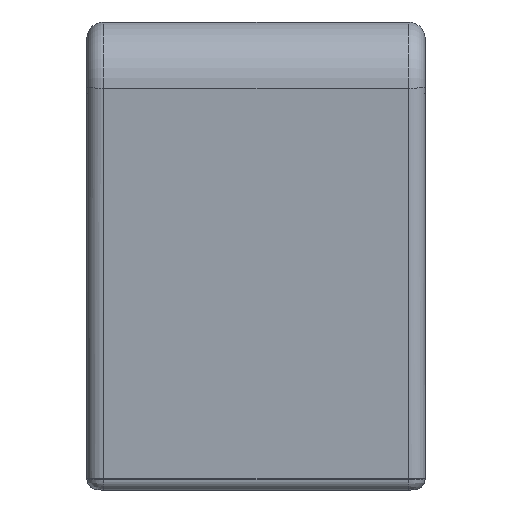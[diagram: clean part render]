
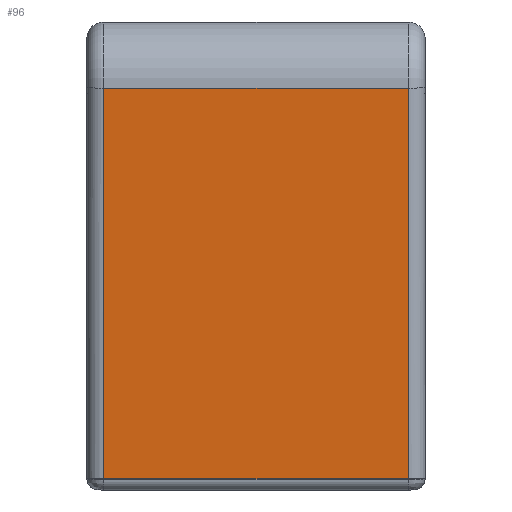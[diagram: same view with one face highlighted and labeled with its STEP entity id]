
A CAD part, left-side view. The second image highlights one B-rep face of the part: STEP entity #96.
In plain terms, the highlighted planar face has unit normal (-0.998, 0, -0.067).
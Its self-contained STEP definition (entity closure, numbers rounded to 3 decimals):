
#96 = ADVANCED_FACE ( 'NONE', ( #1278 ), #4313, .T. ) ;
#222 = AXIS2_PLACEMENT_3D ( 'NONE', #4314, #4315, #4316 ) ;
#479 = EDGE_CURVE ( 'NONE', #3747, #3734, #1827, .T. ) ;
#480 = EDGE_CURVE ( 'NONE', #3734, #3723, #1829, .T. ) ;
#481 = EDGE_CURVE ( 'NONE', #3723, #3728, #1831, .T. ) ;
#482 = EDGE_CURVE ( 'NONE', #3747, #3728, #1833, .T. ) ;
#599 = EDGE_LOOP ( 'NONE', ( #1750, #1751, #1752, #1753 ) ) ;
#1278 = FACE_OUTER_BOUND ( 'NONE', #599, .T. ) ;
#1750 = ORIENTED_EDGE ( 'NONE', *, *, #479, .T. ) ;
#1751 = ORIENTED_EDGE ( 'NONE', *, *, #480, .T. ) ;
#1752 = ORIENTED_EDGE ( 'NONE', *, *, #481, .T. ) ;
#1753 = ORIENTED_EDGE ( 'NONE', *, *, #482, .F. ) ;
#1827 = LINE ( 'NONE', #3041, #1828 ) ;
#1828 = VECTOR ( 'NONE', #3042, 1000. ) ;
#1829 = LINE ( 'NONE', #3043, #1830 ) ;
#1830 = VECTOR ( 'NONE', #3044, 1000. ) ;
#1831 = LINE ( 'NONE', #3045, #1832 ) ;
#1832 = VECTOR ( 'NONE', #3046, 1000. ) ;
#1833 = LINE ( 'NONE', #3047, #1834 ) ;
#1834 = VECTOR ( 'NONE', #3048, 1000. ) ;
#3041 = CARTESIAN_POINT ( 'NONE',  ( -268., 13.5, -7. ) ) ;
#3042 = DIRECTION ( 'NONE',  ( 0.067, 0., -0.998 ) ) ;
#3043 = CARTESIAN_POINT ( 'NONE',  ( -268.063, 15., -6.067 ) ) ;
#3044 = DIRECTION ( 'NONE',  ( 0., -1., 0. ) ) ;
#3045 = CARTESIAN_POINT ( 'NONE',  ( -270.388, -13.5, 28.632 ) ) ;
#3046 = DIRECTION ( 'NONE',  ( -0.067, 0., 0.998 ) ) ;
#3047 = CARTESIAN_POINT ( 'NONE',  ( -270.388, 15., 28.632 ) ) ;
#3048 = DIRECTION ( 'NONE',  ( 0., -1., 0. ) ) ;
#3529 = CARTESIAN_POINT ( 'NONE',  ( -268.063, -13.5, -6.067 ) ) ;
#3534 = CARTESIAN_POINT ( 'NONE',  ( -270.388, -13.5, 28.632 ) ) ;
#3540 = CARTESIAN_POINT ( 'NONE',  ( -268.063, 13.5, -6.067 ) ) ;
#3553 = CARTESIAN_POINT ( 'NONE',  ( -270.388, 13.5, 28.632 ) ) ;
#3723 = VERTEX_POINT ( 'NONE', #3529 ) ;
#3728 = VERTEX_POINT ( 'NONE', #3534 ) ;
#3734 = VERTEX_POINT ( 'NONE', #3540 ) ;
#3747 = VERTEX_POINT ( 'NONE', #3553 ) ;
#4313 = PLANE ( 'NONE',  #222 ) ;
#4314 = CARTESIAN_POINT ( 'NONE',  ( -268., 15., -7. ) ) ;
#4315 = DIRECTION ( 'NONE',  ( -0.998, 0., -0.067 ) ) ;
#4316 = DIRECTION ( 'NONE',  ( -0.067, 0., 0.998 ) ) ;
